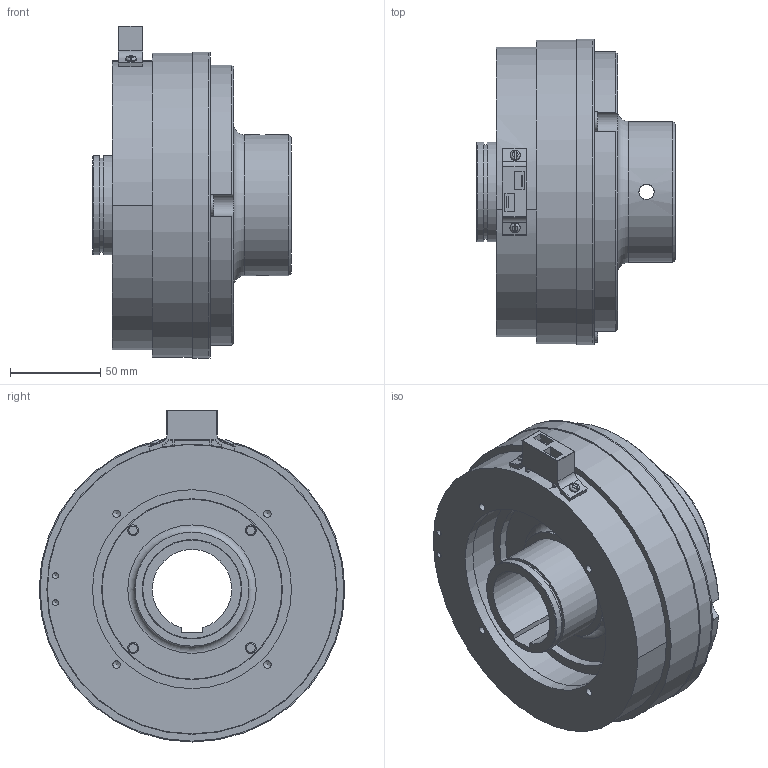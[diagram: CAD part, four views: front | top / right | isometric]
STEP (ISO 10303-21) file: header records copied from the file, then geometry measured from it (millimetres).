
FILE_DESCRIPTION(/* description */ (''),/* implementation_level */ '2;1');
FILE_NAME(/* name */ 'X:\INVENTOR\DISEGNI\08_Freni_Friz_Elettmag_Monodisco\08_26 EMSL_DF\EMSL_DF STEP\08_26_170_22 EMSL170_DF-BM-ME_S@STEP.stp',/* time_stamp */ '2018-04-24T09:00:25+02:00',/* author */ ('stefano'),/* organization */ (''),/* preprocessor_version */ 'ST-DEVELOPER v17',/* originating_system */ 'Autodesk Inventor 2018',/* authorisation */ '');
FILE_SCHEMA (('AUTOMOTIVE_DESIGN { 1 0 10303 214 3 1 1 }'));
Length unit declared in the file: millimetre
Products named in the file (1): 08_26_170_22 EMSL170_DF-BM-ME - Spina_Substitute_1
Bounding box: 110 x 169 x 183.59 mm (x, y, z)
Volume: 894815.9 mm3; surface area: 253631.7 mm2
Topology: 3 solids, 3 shells, 507 faces, 1375 edges, 903 vertices
Faces by surface type: cylinder 237, plane 161, cone 51, torus 38, sphere 20
Full cylindrical faces by diameter (mm): 1.5 x6, 3.242 x2, 4.134 x4, 5.6 x2, 6 x8, 8.376 x2, 10 x3, 10.5 x4, 11 x9, 12 x3, 52 x1, 55 x2, 63 x1, 78 x1, 80 x1, 99.5 x1, 100 x1, 105 x2, 110 x1, 110.5 x1, 111 x1, 122 x1, 129 x2, 149 x2, 155 x1, 160.5 x1, 168 x1, 169 x2
Entity records: 16992 total; most frequent: CARTESIAN_POINT 3369, DIRECTION 2986, ORIENTED_EDGE 2674, EDGE_CURVE 1337, AXIS2_PLACEMENT_3D 1232, VERTEX_POINT 903, CIRCLE 724, EDGE_LOOP 630
